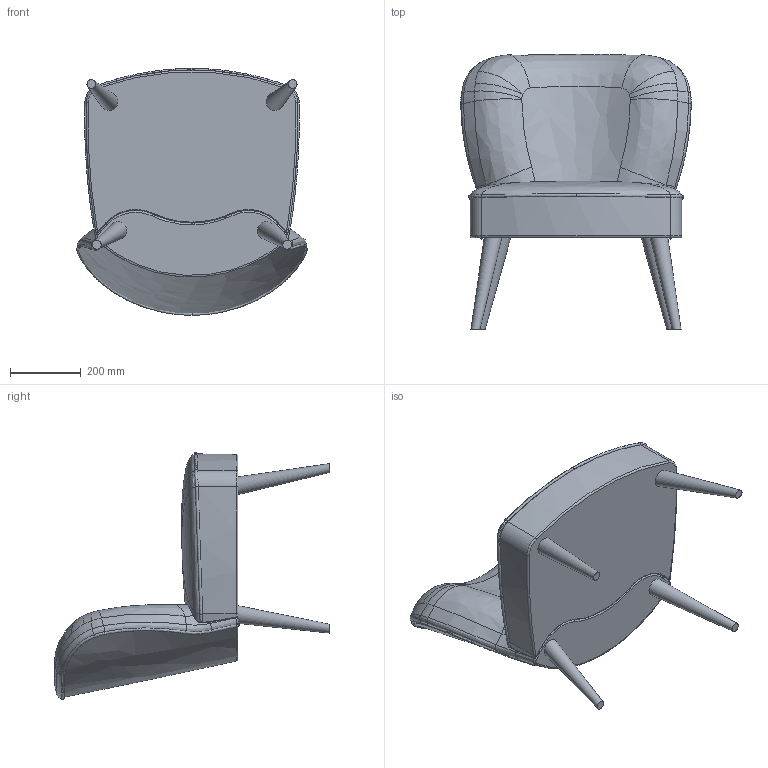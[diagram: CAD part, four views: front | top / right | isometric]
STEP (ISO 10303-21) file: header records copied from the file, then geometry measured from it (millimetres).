
FILE_DESCRIPTION (( 'STEP AP203' ), '1' );
FILE_NAME ('Cocktail.STEP', '2018-11-22T11:53:55', ( '' ), ( '' ), 'SwSTEP 2.0', 'SolidWorks 2014', '' );
FILE_SCHEMA (( 'CONFIG_CONTROL_DESIGN' ));
Length unit declared in the file: millimetre
Products named in the file (1): Cocktail
Bounding box: 652.65 x 780.4 x 699.6 mm (x, y, z)
Volume: 79675567.4 mm3; surface area: 1832721.2 mm2
Topology: 9 solids, 9 shells, 186 faces, 447 edges, 269 vertices
Faces by surface type: bspline 140, cylinder 21, plane 18, torus 7
Entity records: 22873 total; most frequent: CARTESIAN_POINT 19746, ORIENTED_EDGE 846, EDGE_CURVE 423, DIRECTION 296, B_SPLINE_CURVE_WITH_KNOTS 296, VERTEX_POINT 263, FACE_OUTER_BOUND 194, EDGE_LOOP 194
